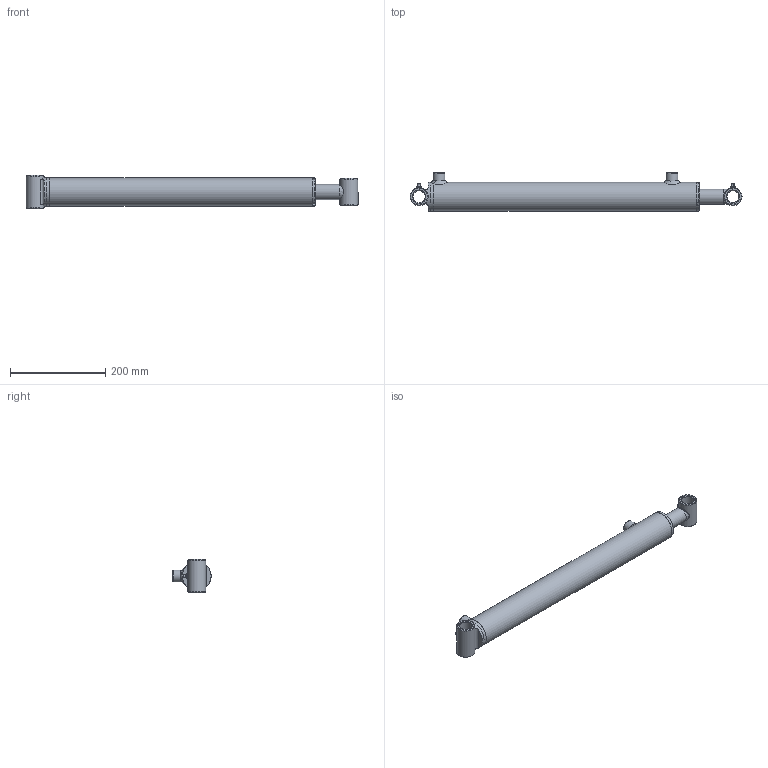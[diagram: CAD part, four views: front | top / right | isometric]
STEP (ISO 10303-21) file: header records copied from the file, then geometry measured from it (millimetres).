
FILE_DESCRIPTION(/* description */ (''),/* implementation_level */ '2;1');
FILE_NAME(/* name */ 'C:\01 - Philip\00 - Philip Rivard\01 - Contracts\Eagle Hydraulic Components\00 - 3D Cylinder\01 - Standard\HBU\HBU20XX\STEP\HBU2018.stp',/* time_stamp */ '2015-05-19T20:03:09-04:00',/* author */ ('Philip'),/* organization */ (''),/* preprocessor_version */ 'ST-DEVELOPER v16.1',/* originating_system */ 'Autodesk Inventor 2016',/* authorisation */ '');
FILE_SCHEMA (('AUTOMOTIVE_DESIGN { 1 0 10303 214 3 1 1 }'));
Length unit declared in the file: inch
Products named in the file (12): Tube_Welding_Welds; ECP-20-HBU; Tube; Straight_Port; Gland; Grease Fitting 1-8; Tube_Welding; Rod_Welding_Welds; Rod; Bushing; Rod_Welding; Cylinder_Assembly
Assembly tree (13 placements, depth 3):
  Cylinder_Assembly
    Tube_Welding
      Tube_Welding_Welds
      ECP-20-HBU
      Tube
      Straight_Port  x2
      Gland
      Grease Fitting 1-8
    Rod_Welding
      Rod_Welding_Welds
      Rod
      Bushing
      Grease Fitting 1-8
Bounding box: 698.5 x 80.33 x 69.8 mm (x, y, z)
Volume: 1104698.7 mm3; surface area: 320862.5 mm2
Topology: 12 solids, 12 shells, 197 faces, 429 edges, 260 vertices
Faces by surface type: cone 65, plane 55, cylinder 50, torus 15, bspline 10, sphere 2
Full cylindrical faces by diameter (mm): 4 x2, 5 x1, 7.5 x2, 8 x2, 10 x2, 12.751 x2, 22 x1, 25 x4, 25.4 x2, 25.65 x2, 26 x1, 26.25 x1, 31.75 x2, 38.1 x2, 43 x1, 44.45 x1, 50.546 x1, 50.75 x1, 50.8 x1, 51 x1, 55 x4, 60.3 x1, 60.325 x1
Entity records: 6090 total; most frequent: CARTESIAN_POINT 2900, DIRECTION 631, ORIENTED_EDGE 486, AXIS2_PLACEMENT_3D 293, EDGE_LOOP 270, EDGE_CURVE 243, VERTEX_POINT 191, ADVANCED_FACE 157
